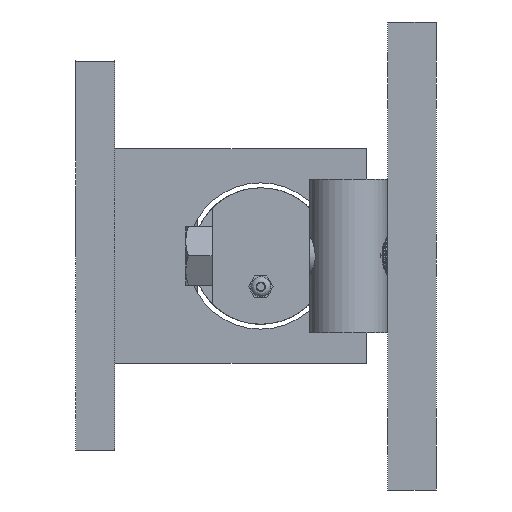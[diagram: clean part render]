
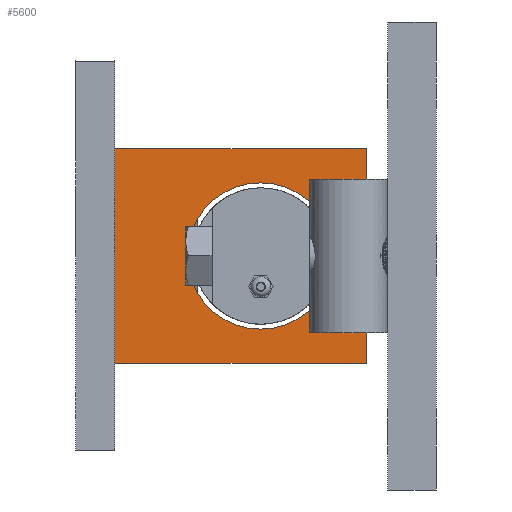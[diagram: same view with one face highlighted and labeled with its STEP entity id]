
A CAD part, left-side view. The second image highlights one B-rep face of the part: STEP entity #5600.
In plain terms, the highlighted planar face has unit normal (-1, 0, 0).
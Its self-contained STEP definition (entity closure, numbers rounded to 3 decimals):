
#200=FACE_BOUND('',#1096,.T.);
#294=PLANE('',#6105);
#432=CIRCLE('',#6104,47.65);
#738=FACE_OUTER_BOUND('',#1095,.T.);
#1095=EDGE_LOOP('',(#5076,#5077,#5078,#5079));
#1096=EDGE_LOOP('',(#5080));
#1697=LINE('',#23992,#2067);
#1712=LINE('',#24170,#2082);
#1713=LINE('',#24172,#2083);
#1714=LINE('',#24173,#2084);
#2067=VECTOR('',#7302,10.);
#2082=VECTOR('',#7353,10.);
#2083=VECTOR('',#7354,10.);
#2084=VECTOR('',#7355,10.);
#2615=VERTEX_POINT('',#23989);
#2616=VERTEX_POINT('',#23991);
#2627=VERTEX_POINT('',#24098);
#2629=VERTEX_POINT('',#24169);
#2630=VERTEX_POINT('',#24171);
#3424=EDGE_CURVE('',#2616,#2615,#1697,.T.);
#3445=EDGE_CURVE('',#2627,#2627,#432,.T.);
#3447=EDGE_CURVE('',#2615,#2629,#1712,.T.);
#3448=EDGE_CURVE('',#2629,#2630,#1713,.T.);
#3449=EDGE_CURVE('',#2630,#2616,#1714,.T.);
#5076=ORIENTED_EDGE('',*,*,#3447,.T.);
#5077=ORIENTED_EDGE('',*,*,#3448,.T.);
#5078=ORIENTED_EDGE('',*,*,#3449,.T.);
#5079=ORIENTED_EDGE('',*,*,#3424,.T.);
#5080=ORIENTED_EDGE('',*,*,#3445,.T.);
#5600=ADVANCED_FACE('',(#738,#200),#294,.F.);
#6104=AXIS2_PLACEMENT_3D('',#24100,#7349,#7350);
#6105=AXIS2_PLACEMENT_3D('',#24168,#7351,#7352);
#7302=DIRECTION('',(0.,0.,-1.));
#7349=DIRECTION('center_axis',(1.,0.,0.));
#7350=DIRECTION('ref_axis',(0.,0.,-1.));
#7351=DIRECTION('center_axis',(1.,0.,0.));
#7352=DIRECTION('ref_axis',(0.,0.,-1.));
#7353=DIRECTION('',(0.,-1.,0.));
#7354=DIRECTION('',(0.,0.,1.));
#7355=DIRECTION('',(0.,1.,0.));
#23989=CARTESIAN_POINT('',(-30.,209.552,-70.));
#23991=CARTESIAN_POINT('',(-30.,209.552,70.));
#23992=CARTESIAN_POINT('',(-30.,209.552,70.));
#24098=CARTESIAN_POINT('',(-30.,114.552,47.65));
#24100=CARTESIAN_POINT('Origin',(-30.,114.552,0.));
#24168=CARTESIAN_POINT('Origin',(-30.,127.552,0.));
#24169=CARTESIAN_POINT('',(-30.,45.552,-70.));
#24170=CARTESIAN_POINT('',(-30.,209.552,-70.));
#24171=CARTESIAN_POINT('',(-30.,45.552,70.));
#24172=CARTESIAN_POINT('',(-30.,45.552,-70.));
#24173=CARTESIAN_POINT('',(-30.,45.552,70.));
